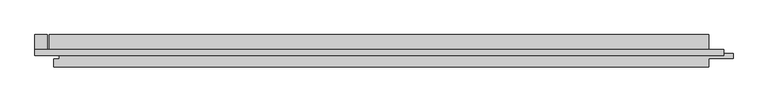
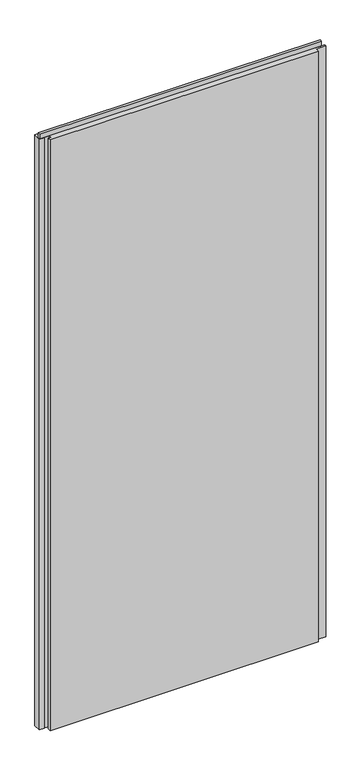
"""IFC4 building model written with IfcOpenShell, lengths in millimetres: plate geometry, Trimo_Qbiss Screen_Normal Panel-VERTICAL : HR - B."""

from ifc_helpers import new_model, si_unit, frame, origin, place, context, project, spatial, polyline, outline, extrude, source, transform, mapped, element, save


def plate_58070d4d(model_context):
    return source(origin(), model_context, "Body", "SweptSolid", [
        extrude(outline(polyline([(-571.0, 97.0), (-571.0, 126.0), (-552.0, 126.0), (-552.0, 97.0), (-571.0, 97.0)])), frame((0.0, 0.0, 12.5), z_axis=(0.0, 0.0, 1.0), x_axis=(1.0, 0.0, 0.0)), (0.0, 0.0, 1.0), 2375.0),
        extrude(outline(polyline([(478.0, 97.0), (478.0, 102.6), (499.0, 102.6), (499.0, 97.0), (478.0, 97.0)])), frame((0.0, 0.0, 12.5), z_axis=(0.0, 0.0, 1.0), x_axis=(1.0, 0.0, 0.0)), (0.0, 0.0, 1.0), 2375.0),
        extrude(outline(polyline([(-571.0, 93.9), (-571.0, 102.6), (500.0, 102.6), (500.0, 93.9), (-571.0, 93.9)])), frame((0.0, 0.0, 2390.5), z_axis=(0.0, 0.0, 1.0), x_axis=(1.0, 0.0, 0.0)), (0.0, 0.0, 1.0), 19.0),
        extrude(outline(polyline([(477.0, 97.0), (514.5, 97.0), (514.5, 89.0), (477.0, 89.0), (477.0, 76.0), (-542.0, 76.0), (-542.0, 88.0), (-533.5, 88.0), (-533.5, 98.0), (-549.0, 98.0), (-549.0, 126.0), (477.0, 126.0), (477.0, 97.0)])), frame((0.0, 0.0, 12.5), z_axis=(0.0, 0.0, 1.0), x_axis=(1.0, 0.0, 0.0)), (0.0, 0.0, 1.0), 2375.0),
    ])


if __name__ == "__main__":
    model = new_model("IFC4")
    model_context = context("Model", 3, world=origin())
    ifc_project = project(units=[si_unit("LENGTHUNIT", "METRE", prefix="MILLI")], contexts=[model_context])
    site = spatial("IfcSite", under=ifc_project)
    building = spatial("IfcBuilding", under=site)
    placement = place(None, origin())
    plate_shape = plate_58070d4d(model_context)
    element("IfcPlate", 1, ObjectType="Trimo_Qbiss Screen_Normal Panel-VERTICAL : HR - B", at=placement, inside=building, context=model_context, shape_type="MappedRepresentation", body=[
        mapped(plate_shape, transform((0.0, 0.0, 0.0), x_axis=(1.0, 0.0, 0.0), y_axis=(0.0, 1.0, 0.0), z_axis=(0.0, 0.0, 1.0))),
    ])
    save(model, "model.ifc")
